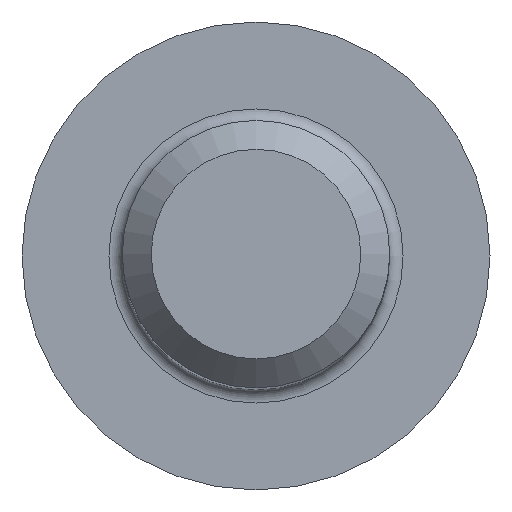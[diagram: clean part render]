
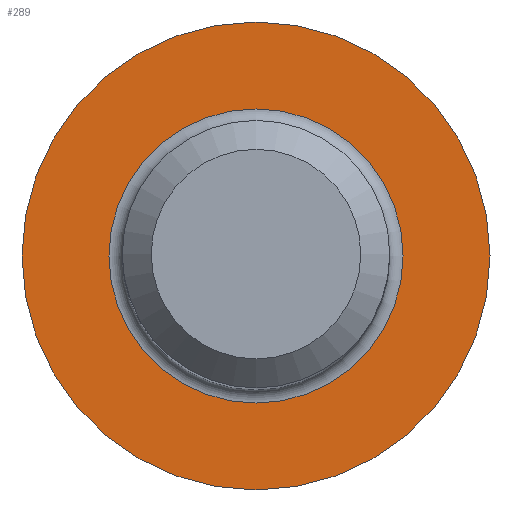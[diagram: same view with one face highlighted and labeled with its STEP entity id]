
A CAD part, top view. The second image highlights one B-rep face of the part: STEP entity #289.
In plain terms, the highlighted planar face has unit normal (0, 0, 1).
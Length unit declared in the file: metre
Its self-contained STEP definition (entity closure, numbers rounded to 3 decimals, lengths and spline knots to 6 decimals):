
#95=ORIENTED_EDGE('',*,*,#164,.T.);
#96=ORIENTED_EDGE('',*,*,#160,.F.);
#160=EDGE_CURVE('',#192,#192,#205,.T.);
#164=EDGE_CURVE('',#196,#196,#209,.T.);
#192=VERTEX_POINT('',#483);
#196=VERTEX_POINT('',#494);
#205=CIRCLE('',#325,0.0011);
#209=CIRCLE('',#332,0.00175);
#225=EDGE_LOOP('',(#95));
#226=EDGE_LOOP('',(#96));
#251=FACE_BOUND('',#225,.T.);
#252=FACE_BOUND('',#226,.T.);
#271=PLANE('',#333);
#289=ADVANCED_FACE('',(#251,#252),#271,.T.);
#325=AXIS2_PLACEMENT_3D('',#482,#388,#389);
#332=AXIS2_PLACEMENT_3D('',#493,#402,#403);
#333=AXIS2_PLACEMENT_3D('',#495,#404,#405);
#388=DIRECTION('',(0.,0.,1.));
#389=DIRECTION('',(0.,-1.,0.));
#402=DIRECTION('',(0.,0.,1.));
#403=DIRECTION('',(0.,-1.,0.));
#404=DIRECTION('',(0.,0.,1.));
#405=DIRECTION('',(0.,-1.,0.));
#482=CARTESIAN_POINT('',(-0.070177,-0.014034,-0.049731));
#483=CARTESIAN_POINT('',(-0.070177,-0.015134,-0.049731));
#493=CARTESIAN_POINT('',(-0.070177,-0.014034,-0.049731));
#494=CARTESIAN_POINT('',(-0.070177,-0.015784,-0.049731));
#495=CARTESIAN_POINT('',(-0.070177,-0.016011,-0.049731));
